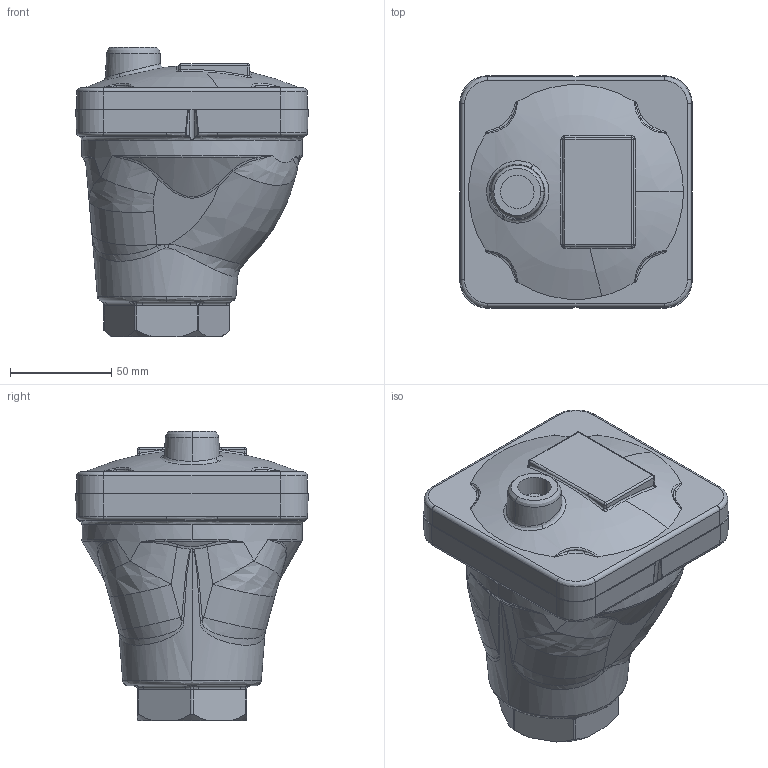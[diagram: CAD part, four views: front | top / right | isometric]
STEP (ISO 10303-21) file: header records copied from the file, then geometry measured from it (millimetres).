
FILE_DESCRIPTION( (''), '2;1');
FILE_NAME ('PC1027.10420.TA-3　25A_28349.stp','2025-07-29T10:54:05',(''),(''),'spGate 20.6.3 (****-****-****-****)','','');
FILE_SCHEMA (('AUTOMOTIVE_DESIGN'));
Length unit declared in the file: millimetre
Products named in the file (3): Assembly; TA-3　本体　25A; TA-3　ふた
Assembly tree (2 placements, depth 2):
  Assembly
    TA-3　本体　25A
    TA-3　ふた
Bounding box: 114.92 x 114.92 x 143 mm (x, y, z)
Volume: 458586.5 mm3; surface area: 104687.2 mm2
Topology: 2 solids, 2 shells, 354 faces, 857 edges, 500 vertices
Faces by surface type: bspline 201, cylinder 77, plane 68, sphere 8
Entity records: 30640 total; most frequent: CARTESIAN_POINT 17107, ORIENTED_EDGE 1686, COLOUR_RGB 1199, PRESENTATION_STYLE_ASSIGNMENT 1199, STYLED_ITEM 1199, DIRECTION 1069, EDGE_CURVE 843, DRAUGHTING_PRE_DEFINED_CURVE_FONT 843
